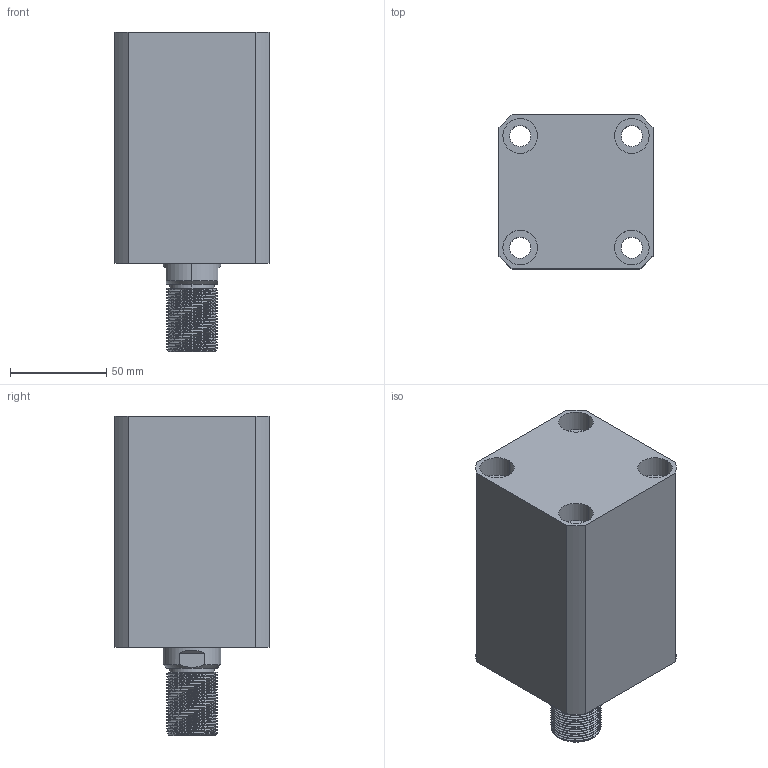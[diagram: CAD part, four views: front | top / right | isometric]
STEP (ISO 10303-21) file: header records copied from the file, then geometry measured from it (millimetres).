
FILE_DESCRIPTION (( 'STEP AP203' ), '1' );
FILE_NAME ('CHTB-SDMA50-60W.STEP', '2018-05-19T02:25:49', ( '' ), ( '' ), 'SwSTEP 2.0', 'SolidWorks 2015', '' );
FILE_SCHEMA (( 'CONFIG_CONTROL_DESIGN' ));
Length unit declared in the file: millimetre
Products named in the file (5): CHTB-SDMA50-60W; M6; CHTM-SDMA50QG; 活塞杆SDMA50-60W; 掛极SDMA50-60W
Assembly tree (5 placements, depth 2):
  CHTB-SDMA50-60W
    掛极SDMA50-60W
    活塞杆SDMA50-60W
    CHTM-SDMA50QG
    M6  x2
Bounding box: 80 x 80 x 166 mm (x, y, z)
Volume: 641693.9 mm3; surface area: 124427.5 mm2
Topology: 5 solids, 5 shells, 312 faces, 831 edges, 553 vertices
Faces by surface type: cylinder 179, plane 60, cone 29, bspline 28, torus 16
Entity records: 17949 total; most frequent: CARTESIAN_POINT 11067, ORIENTED_EDGE 1468, DIRECTION 1169, EDGE_CURVE 734, VERTEX_POINT 492, AXIS2_PLACEMENT_3D 472, EDGE_LOOP 320, FACE_OUTER_BOUND 277
